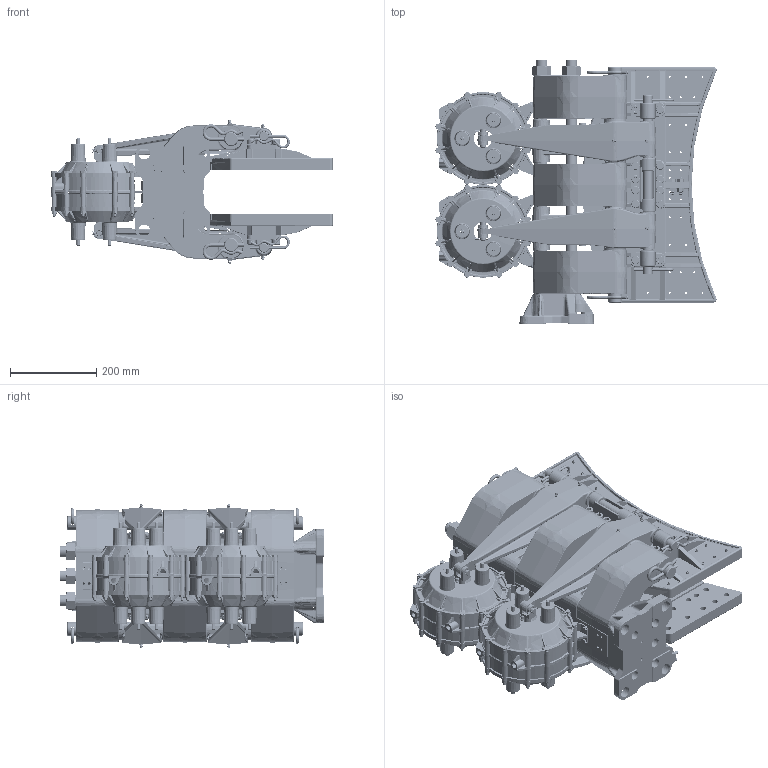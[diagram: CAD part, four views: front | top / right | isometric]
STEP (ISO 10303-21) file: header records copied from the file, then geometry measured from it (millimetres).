
FILE_DESCRIPTION (( 'STEP AP214' ), '1' );
FILE_NAME ('5028-A.STEP', '2018-12-13T23:02:11', ( 'User' ), ( 'Hewlett-Packard Company' ), 'SwSTEP 2.0', 'SolidWorks 2017', '' );
FILE_SCHEMA (( 'AUTOMOTIVE_DESIGN' ));
Length unit declared in the file: inch
Products named in the file (1): 5028-A
Bounding box: 653.01 x 614.68 x 333.11 mm (x, y, z)
Surface area: 3287153.9 mm2 (no closed solid volume)
Topology: 0 solids, 394 shells, 6917 faces, 23419 edges, 15907 vertices
Faces by surface type: cylinder 2055, plane 1837, cone 1060, bspline 1050, torus 898, sphere 17
Entity records: 460301 total; most frequent: CARTESIAN_POINT 184179, DIRECTION 37997, ORIENTED_EDGE 35704, EDGE_CURVE 23334, VERTEX_POINT 15907, AXIS2_PLACEMENT_3D 15619, CIRCLE 9751, EDGE_LOOP 7862
